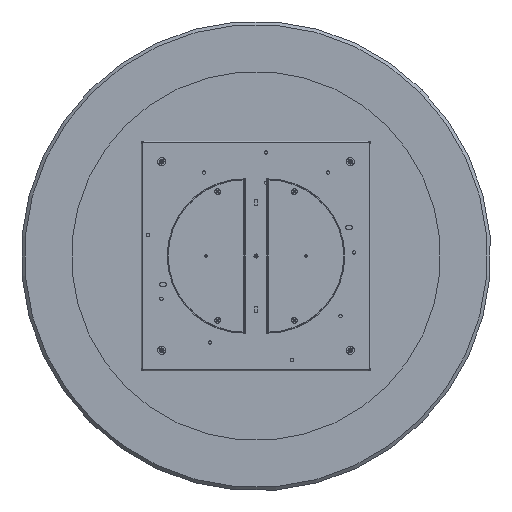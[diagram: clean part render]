
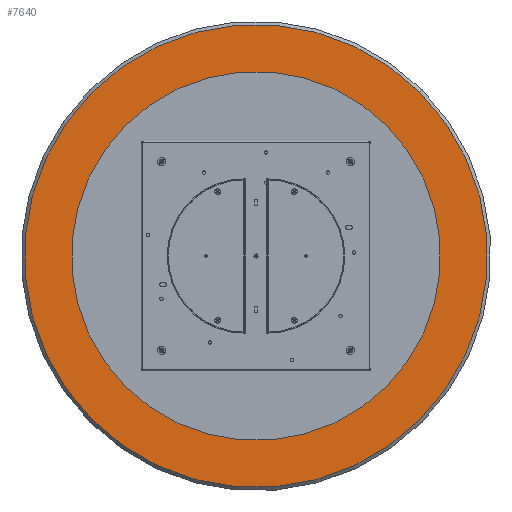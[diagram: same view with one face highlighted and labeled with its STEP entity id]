
A CAD part, front view. The second image highlights one B-rep face of the part: STEP entity #7640.
In plain terms, the highlighted planar face has unit normal (0, -1, 0).
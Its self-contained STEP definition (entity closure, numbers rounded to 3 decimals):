
#1220 = CARTESIAN_POINT ( 'NONE',  ( 0., 0., 690. ) ) ;
#1265 = DIRECTION ( 'NONE',  ( 0., 0., -1. ) ) ;
#2032 = CIRCLE ( 'NONE', #2048, 690. ) ;
#2048 = AXIS2_PLACEMENT_3D ( 'NONE', #13640, #7053, #16323 ) ;
#2423 = VERTEX_POINT ( 'NONE', #6789 ) ;
#3287 = EDGE_CURVE ( 'NONE', #12569, #2423, #7535, .T. ) ;
#3491 = FACE_OUTER_BOUND ( 'NONE', #9215, .T. ) ;
#3718 = AXIS2_PLACEMENT_3D ( 'NONE', #13949, #15240, #6142 ) ;
#4053 = EDGE_CURVE ( 'NONE', #2423, #12569, #2032, .T. ) ;
#4330 = DIRECTION ( 'NONE',  ( 0., -1., 0. ) ) ;
#4800 = CIRCLE ( 'NONE', #5069, 3.3 ) ;
#4907 = ORIENTED_EDGE ( 'NONE', *, *, #5468, .F. ) ;
#5069 = AXIS2_PLACEMENT_3D ( 'NONE', #6928, #15803, #1265 ) ;
#5420 = EDGE_CURVE ( 'NONE', #9392, #14749, #8928, .T. ) ;
#5468 = EDGE_CURVE ( 'NONE', #14749, #9392, #4800, .T. ) ;
#6022 = EDGE_LOOP ( 'NONE', ( #8207, #4907 ) ) ;
#6142 = DIRECTION ( 'NONE',  ( 0., 0., -1. ) ) ;
#6469 = ORIENTED_EDGE ( 'NONE', *, *, #3287, .T. ) ;
#6789 = CARTESIAN_POINT ( 'NONE',  ( 0., 0., -690. ) ) ;
#6928 = CARTESIAN_POINT ( 'NONE',  ( 0., 0., 0. ) ) ;
#7053 = DIRECTION ( 'NONE',  ( 0., -1., 0. ) ) ;
#7535 = CIRCLE ( 'NONE', #8911, 690. ) ;
#7640 = ADVANCED_FACE ( 'NONE', ( #14122, #3491 ), #11032, .T. ) ;
#8207 = ORIENTED_EDGE ( 'NONE', *, *, #5420, .F. ) ;
#8911 = AXIS2_PLACEMENT_3D ( 'NONE', #16082, #4330, #10800 ) ;
#8928 = CIRCLE ( 'NONE', #12535, 3.3 ) ;
#9211 = DIRECTION ( 'NONE',  ( 0., -1., 0. ) ) ;
#9215 = EDGE_LOOP ( 'NONE', ( #6469, #15956 ) ) ;
#9392 = VERTEX_POINT ( 'NONE', #15084 ) ;
#10800 = DIRECTION ( 'NONE',  ( 0., 0., -1. ) ) ;
#11032 = PLANE ( 'NONE',  #3718 ) ;
#11837 = DIRECTION ( 'NONE',  ( 0., 0., -1. ) ) ;
#12535 = AXIS2_PLACEMENT_3D ( 'NONE', #17010, #9211, #11837 ) ;
#12569 = VERTEX_POINT ( 'NONE', #1220 ) ;
#13640 = CARTESIAN_POINT ( 'NONE',  ( 0., 0., 0. ) ) ;
#13949 = CARTESIAN_POINT ( 'NONE',  ( 0., 0., 0. ) ) ;
#14122 = FACE_BOUND ( 'NONE', #6022, .T. ) ;
#14749 = VERTEX_POINT ( 'NONE', #16494 ) ;
#15084 = CARTESIAN_POINT ( 'NONE',  ( 0., 0., -3.3 ) ) ;
#15240 = DIRECTION ( 'NONE',  ( 0., -1., 0. ) ) ;
#15803 = DIRECTION ( 'NONE',  ( 0., -1., 0. ) ) ;
#15956 = ORIENTED_EDGE ( 'NONE', *, *, #4053, .T. ) ;
#16082 = CARTESIAN_POINT ( 'NONE',  ( 0., 0., 0. ) ) ;
#16323 = DIRECTION ( 'NONE',  ( 0., 0., -1. ) ) ;
#16494 = CARTESIAN_POINT ( 'NONE',  ( 0., 0., 3.3 ) ) ;
#17010 = CARTESIAN_POINT ( 'NONE',  ( 0., 0., 0. ) ) ;
